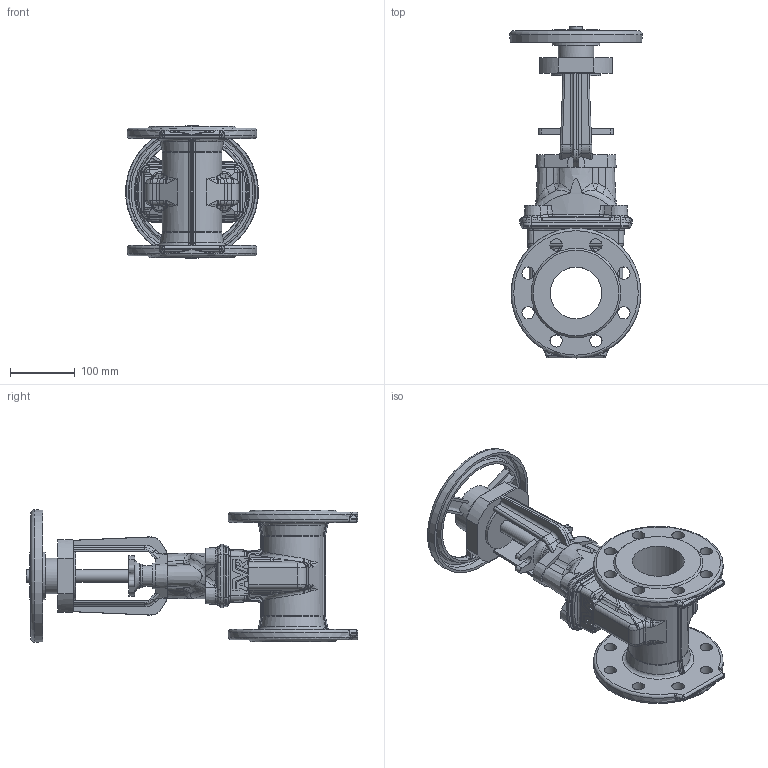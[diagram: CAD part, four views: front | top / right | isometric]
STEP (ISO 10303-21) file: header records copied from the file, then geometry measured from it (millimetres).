
FILE_DESCRIPTION (( 'STEP AP203' ), '1' );
FILE_NAME ('O_21_34_DN080_41XXXXX close_AA0.step', '2020-02-12T09:01:14', ( 'Windows User' ), ( 'AVK' ), 'SwSTEP 2.0', 'SolidWorks 2012', '' );
FILE_SCHEMA (( 'CONFIG_CONTROL_DESIGN' ));
Length unit declared in the file: millimetre
Products named in the file (1): O_21_34_DN080_41XXXXX close_AA0
Bounding box: 204.26 x 511.87 x 204.26 mm (x, y, z)
Volume: 3613469.3 mm3; surface area: 472531.4 mm2
Topology: 1 solids, 1 shells, 870 faces, 2192 edges, 1304 vertices
Faces by surface type: bspline 321, cylinder 222, plane 185, torus 73, cone 65, sphere 4
Full cylindrical faces by diameter (mm): 19 x16, 20 x2, 31.9 x1, 37 x1, 40 x1, 55 x1, 74 x1, 80 x1
Entity records: 37471 total; most frequent: CARTESIAN_POINT 19651, ORIENTED_EDGE 4186, DIRECTION 3094, EDGE_CURVE 2093, VERTEX_POINT 1280, AXIS2_PLACEMENT_3D 1245, EDGE_LOOP 969, FACE_OUTER_BOUND 902
